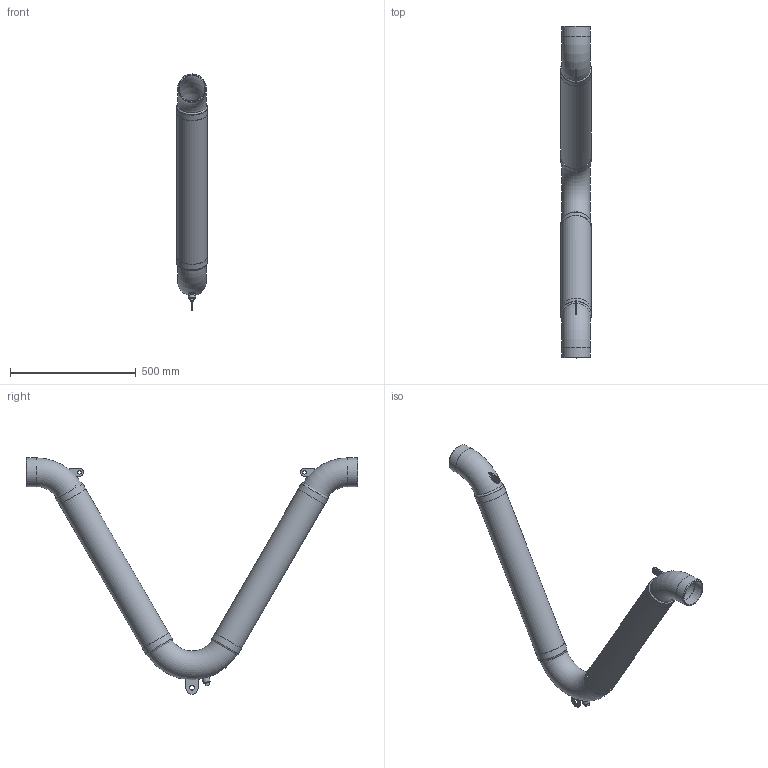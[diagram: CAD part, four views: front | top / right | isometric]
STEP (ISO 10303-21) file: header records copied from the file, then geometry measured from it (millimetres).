
FILE_DESCRIPTION(/* description */ (''),/* implementation_level */ '2;1');
FILE_NAME(/* name */ 'C:\001_Work\Designs\CSAVWN\CSAVWN-4x52.stp',/* time_stamp */ '2016-06-04T15:42:48-04:00',/* author */ ('rramoutar'),/* organization */ ('Mason Industries Inc.'),/* preprocessor_version */ 'ST-DEVELOPER v15.6',/* originating_system */ 'Autodesk Inventor 2015',/* authorisation */ '');
FILE_SCHEMA (('CONFIG_CONTROL_DESIGN'));
Length unit declared in the file: inch
Products named in the file (1): CSAVWN-4x52
Bounding box: 122.99 x 1320.8 x 939.8 mm (x, y, z)
Volume: 1706341.7 mm3; surface area: 1717204.3 mm2
Topology: 16 solids, 16 shells, 97 faces, 195 edges, 129 vertices
Faces by surface type: plane 50, cylinder 33, torus 10, cone 4
Full cylindrical faces by diameter (mm): 14.287 x2, 18.256 x1, 19.05 x1, 21.336 x2, 28.575 x2, 102.26 x2, 111.125 x4, 114.3 x2, 119.888 x2, 120.701 x6, 123.082 x4
Entity records: 2466 total; most frequent: CARTESIAN_POINT 462, DIRECTION 406, ORIENTED_EDGE 274, AXIS2_PLACEMENT_3D 181, EDGE_LOOP 172, EDGE_CURVE 137, VERTEX_POINT 115, STYLED_ITEM 107
